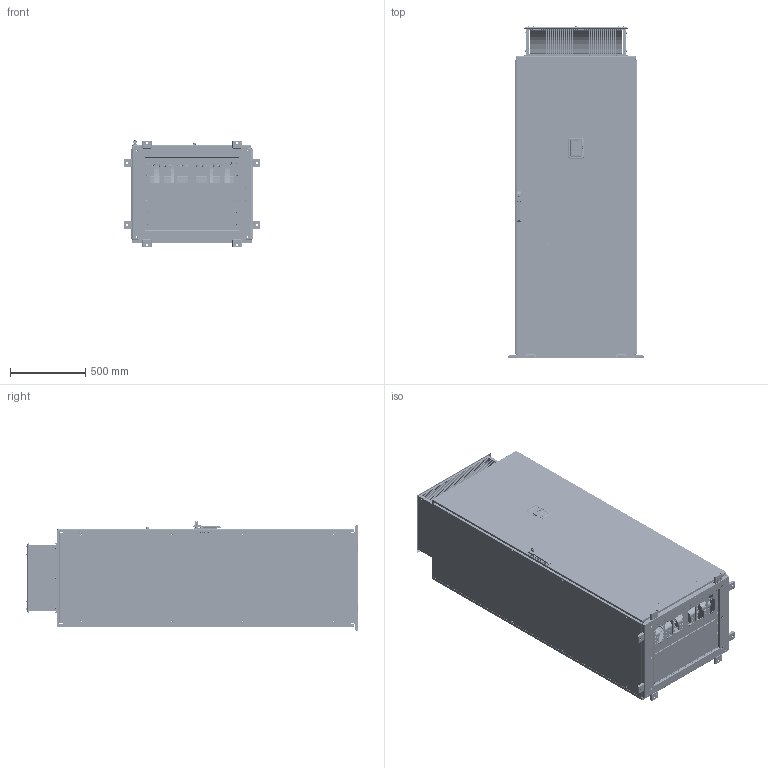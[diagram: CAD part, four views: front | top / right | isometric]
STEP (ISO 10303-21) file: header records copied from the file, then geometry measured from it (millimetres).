
FILE_DESCRIPTION((''),'2;1');
FILE_NAME('GD270-710_800-4_ASM','2025-06-20T11:37:44',('admin'),(''),'CREO PARAMETRIC BY PTC INC, 2019080','CREO PARAMETRIC BY PTC INC, 2019080','');
FILE_SCHEMA(('CONFIG_CONTROL_DESIGN'));
Products named in the file (155): WG-06-00O1_3; 80390223_3; 80390224_3; WG-06-00O2_3; 61500053_ASM_3_ASM; 61500054_ASM_3_ASM; 80391771_3; 80310643_3; 80310878_3; S-M8-ZC_3; 80310878_ASM_3_ASM; 80311109_3; S-M6-ZC_3; 80311109_ASM_3_ASM; 61210944_ASM_3_ASM; 61501124_ASM_3_ASM; WG-05-0001_INVALID-_3_1; WG-05-0001_INVALID-_3_2; WG-05-0001_INVALID-_3_3; WG-05-0001_INVALID-_3_ASM; WG-06-0004_3; WG-06-0003_3; GB819_1_M4X8_3; GB9074_4_M6X12_3; 61063504_ASM_3_ASM; 80422009_6; BS-M5-11D2-SL_4; 80422009_ASM_5_ASM; 80480099_3; WG-05-0001A_3; WG-06-0009_3; 80480341_3; 80483320_3; 80387483_3; 803813111_4; 61763230_ASM_5_ASM; 61763231SY_3; WG-01-0001_3_1; WG-01-0001_3_2; WG-01-0001_3_3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
Assembly tree (332 placements, depth 8):
  GD270-710_800-4_ASM
    00-GD270-0800-4_ASM_5_ASM
      41001934_ASM_7_ASM
        61063504_ASM_3_ASM
          61501124_ASM_3_ASM
            61500053_ASM_3_ASM
              WG-06-00O1_3  x2
              80390223_3  x2
              80390224_3  x2
              WG-06-00O2_3  x2
            61500054_ASM_3_ASM
              WG-06-00O2_3  x2
              80390223_3  x2
              WG-06-00O1_3  x2
              80390224_3  x2
            80391771_3  x4
            61210944_ASM_3_ASM
              80310643_3  x2
              80310878_ASM_3_ASM  x2
                80310878_3
                S-M8-ZC_3
              80311109_ASM_3_ASM  x2
                80311109_3
                S-M6-ZC_3
          WG-05-0001_INVALID-_3_ASM  x4
            WG-05-0001_INVALID-_3_1
            WG-05-0001_INVALID-_3_2
            WG-05-0001_INVALID-_3_3
          WG-06-0004_3
          WG-06-0003_3  x2
          GB819_1_M4X8_3
          GB9074_4_M6X12_3  x8
        61763231SY_ASM_5_ASM
          61763230_ASM_5_ASM
            80422009_ASM_5_ASM
              80422009_6
              BS-M5-11D2-SL_4  x4
            80480099_3  x2
            WG-05-0001A_3  x4
            WG-06-0009_3  x2
            80480341_3  x2
            80483320_3  x2
            80387483_3  x2
            803813111_4  x4
          61763231SY_3
          WG-01-0001_3_ASM
            WG-01-0001_3_1
            WG-01-0001_3_2
            WG-01-0001_3_3
            WG-01-0001_3_4
            WG-01-0001_3_5
            WG-01-0001_3_6
            WG-01-0001_3_7
            WG-01-0001_3_8
            WG-01-0001_3_9
            WG-01-0001_3_10
            WG-01-0001_3_11
            WG-01-0001_3_12
            WG-01-0001_3_13
            WG-01-0001_3_14
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Bounding box: 904 x 2206.3 x 733.35 mm (x, y, z)
Volume: 20698523 mm3; surface area: 24515899.6 mm2
Topology: 300 solids, 311 shells, 38959 faces, 171396 edges, 138260 vertices
Faces by surface type: plane 27706, cylinder 8773, cone 1214, torus 616, bspline 498, sphere 137, extrusion 15
Entity records: 876705 total; most frequent: CARTESIAN_POINT 188601, DIRECTION 160970, ORIENTED_EDGE 72580, TRIMMED_CURVE 59905, COMPOSITE_CURVE_SEGMENT 58653, VECTOR 56840, LINE 56825, AXIS2_PLACEMENT_3D 52065
